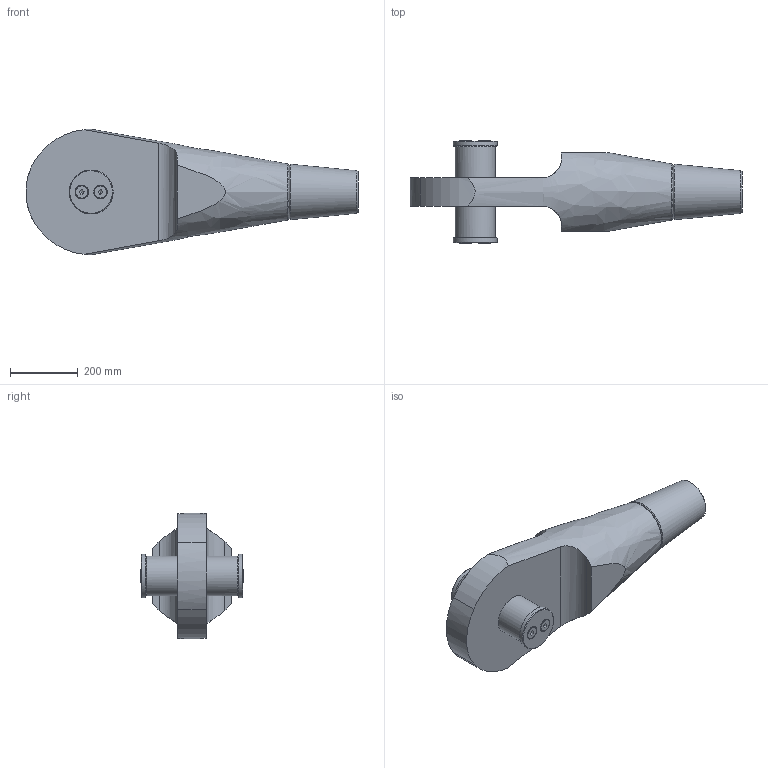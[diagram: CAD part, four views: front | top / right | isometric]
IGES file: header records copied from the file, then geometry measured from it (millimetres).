
Global section: file name: 520-110-OES; native system: Autodesk Inventor 2016; preprocessor: unknown; author: Administrator; date: 20200626.104132; units: centimetre
Bounding box: 981.52 x 302 x 370.95 mm (x, y, z)
Volume: 29164635.1 mm3; surface area: 949776.2 mm2
Topology: 2 solids, 10 shells, 104 faces, 266 edges, 182 vertices
Faces by surface type: bspline 104
